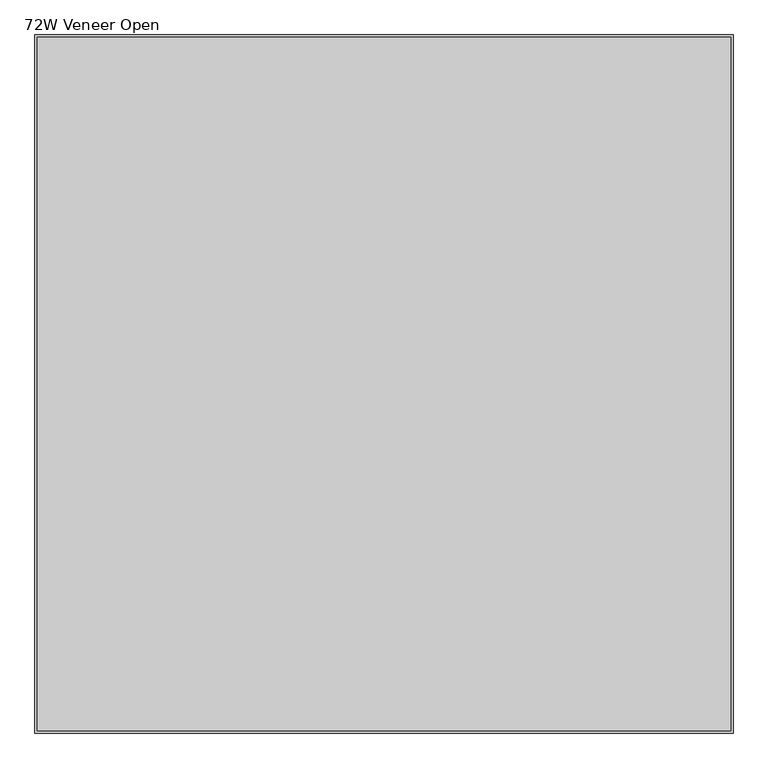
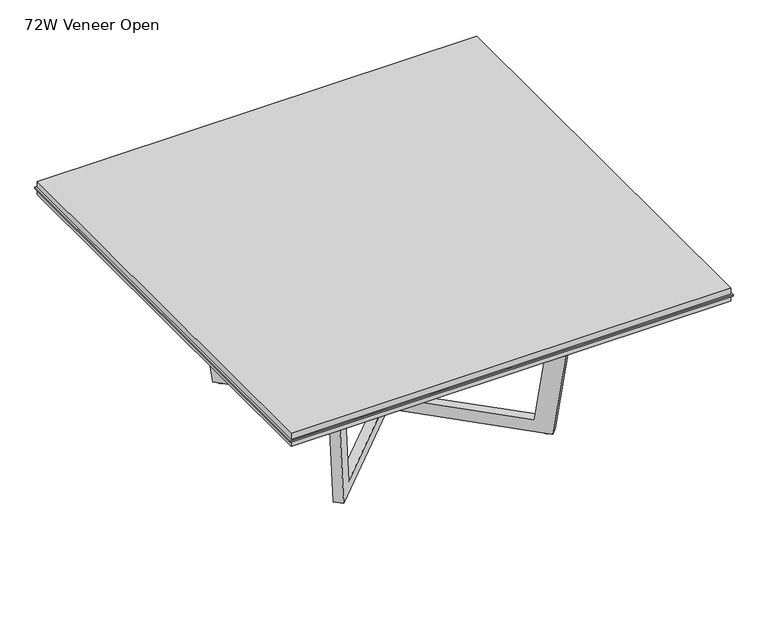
"""IFC4 building model written with IfcOpenShell, lengths in millimetres: furniture geometry, Knoll_Datesweiser_Tables_Meeting_Highline_Square : 72W Veneer Open."""

from ifc_helpers import new_model, si_unit, point, frame, frame_2d, origin, origin_with_axes, place, context, project, spatial, polyline, circle_curve, trimmed, segment, composite_curve, outline, extrude, source, transform, mapped, element, save


def furniture_72w_veneer_open_759ca912(model_context):
    return source(origin(), model_context, "Body", "SweptSolid", [
        extrude(outline(polyline([(914.4, 914.4), (914.4, -914.4), (-914.4, -914.4), (-914.4, 914.4), (914.4, 914.4)])), frame((0.0, 0.0, 698.5), z_axis=(0.0, 0.0, 1.0), x_axis=(1.0, 0.0, 0.0)), (0.0, 0.0, 1.0), 25.4),
        extrude(outline(polyline([(914.4, 914.4), (914.4, -914.4), (-914.4, -914.4), (-914.4, 914.4), (914.4, 914.4)])), frame((0.0, 0.0, 730.25), z_axis=(0.0, 0.0, 1.0), x_axis=(1.0, 0.0, 0.0)), (0.0, 0.0, 1.0), 25.4),
        extrude(outline(polyline([(920.75, 920.75), (920.75, -920.75), (-920.75, -920.75), (-920.75, 920.75), (920.75, 920.75)])), frame((0.0, 0.0, 723.9), z_axis=(0.0, 0.0, 1.0), x_axis=(1.0, 0.0, 0.0)), (0.0, 0.0, 1.0), 6.35),
        extrude(outline(composite_curve([segment(trimmed(circle_curve(frame_2d((-430.2420161, -430.2420161)), 12.7), [point((-417.5420161, -430.2420161))], [point((-442.9420161, -430.2420161))], False, "CARTESIAN"), True, "CONTINUOUS"), segment(trimmed(circle_curve(frame_2d((-430.2420161, -430.2420161)), 12.7), [point((-442.9420161, -430.2420161))], [point((-417.5420161, -430.2420161))], False, "CARTESIAN"), True, "CONTINUOUS")], self_intersect=False)), origin_with_axes(), (0.0, 0.0, 1.0), 5.9867797),
        extrude(outline(composite_curve([segment(trimmed(circle_curve(frame_2d((-430.2420161, 430.2420161)), 12.7), [point((-417.5420161, 430.2420161))], [point((-442.9420161, 430.2420161))], False, "CARTESIAN"), True, "CONTINUOUS"), segment(trimmed(circle_curve(frame_2d((-430.2420161, 430.2420161)), 12.7), [point((-442.9420161, 430.2420161))], [point((-417.5420161, 430.2420161))], False, "CARTESIAN"), True, "CONTINUOUS")], self_intersect=False)), origin_with_axes(), (0.0, 0.0, 1.0), 5.9867797),
        extrude(outline(composite_curve([segment(trimmed(circle_curve(frame_2d((430.2420161, -430.2420161)), 12.7), [point((442.9420161, -430.2420161))], [point((417.5420161, -430.2420161))], False, "CARTESIAN"), True, "CONTINUOUS"), segment(trimmed(circle_curve(frame_2d((430.2420161, -430.2420161)), 12.7), [point((417.5420161, -430.2420161))], [point((442.9420161, -430.2420161))], False, "CARTESIAN"), True, "CONTINUOUS")], self_intersect=False)), origin_with_axes(), (0.0, 0.0, 1.0), 5.9867797),
        extrude(outline(composite_curve([segment(trimmed(circle_curve(frame_2d((430.2420161, 430.2420161)), 12.7), [point((442.9420161, 430.2420161))], [point((417.5420161, 430.2420161))], False, "CARTESIAN"), True, "CONTINUOUS"), segment(trimmed(circle_curve(frame_2d((430.2420161, 430.2420161)), 12.7), [point((417.5420161, 430.2420161))], [point((442.9420161, 430.2420161))], False, "CARTESIAN"), True, "CONTINUOUS")], self_intersect=False)), origin_with_axes(), (0.0, 0.0, 1.0), 5.9867797),
        extrude(outline(polyline([(633.7990639, 0.0), (1267.5960015, 1.6418154), (1365.8753618, -691.1402556), (1289.3280631, -691.2394011), (1198.2722297, -49.376762), (633.8639645, -50.1077947), (69.4556995, -50.8388274), (-19.937125, -692.9351873), (-96.4844236, -693.0343328), (0.0, 0.0), (633.7990639, 0.0)])), frame((-461.3328396, 434.6928596, 5.5912411), z_axis=(0.7071067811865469, 0.7071067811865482, 0.0), x_axis=(0.707106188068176, -0.7071061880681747, 0.0012952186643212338)), (0.0, 0.0, 1.0), 37.6746211),
        extrude(outline(polyline([(633.799064, 0.0), (1267.5960015, 1.6418154), (1365.8753618, -691.1402556), (1289.3280632, -691.2394011), (1198.2722297, -49.376762), (633.8639646, -50.1077947), (69.4556995, -50.8388274), (-19.9371249, -692.9351873), (-96.4844235, -693.0343328), (0.0, 0.0), (633.799064, 0.0)])), frame((-434.6928596, -461.6336207, 5.5912411), z_axis=(-0.707106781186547, 0.7071067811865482, 0.0), x_axis=(0.7071061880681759, 0.7071061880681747, 0.0012952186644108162)), (0.0, 0.0, 1.0), 37.6746211),
    ])


if __name__ == "__main__":
    model = new_model("IFC4")
    model_context = context("Model", 3, world=origin())
    ifc_project = project(units=[si_unit("LENGTHUNIT", "METRE", prefix="MILLI")], contexts=[model_context])
    site = spatial("IfcSite", under=ifc_project)
    building = spatial("IfcBuilding", under=site)
    placement = place(None, origin())
    furniture_72w_veneer_open_shape = furniture_72w_veneer_open_759ca912(model_context)
    element("IfcFurniture", 1, ObjectType="Knoll_Datesweiser_Tables_Meeting_Highline_Square : 72W Veneer Open", at=placement, inside=building, context=model_context, shape_type="MappedRepresentation", body=[
        mapped(furniture_72w_veneer_open_shape, transform((0.0, 0.0, 0.0), x_axis=(1.0, 0.0, 0.0), y_axis=(0.0, 1.0, 0.0), z_axis=(0.0, 0.0, 1.0))),
    ])
    save(model, "model.ifc")
